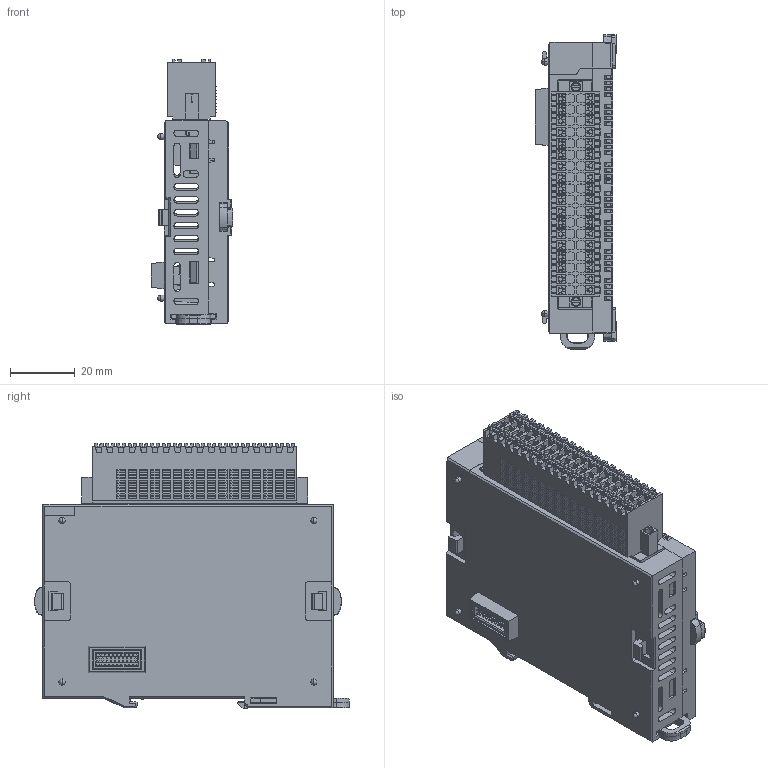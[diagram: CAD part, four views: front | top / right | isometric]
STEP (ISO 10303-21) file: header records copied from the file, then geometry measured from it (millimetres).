
FILE_DESCRIPTION (( 'STEP AP203' ), '1' );
FILE_NAME ('CM3-SP02POS, SP32EOTP, SP32EOCP, SP32EDOP_目池磐 器窃.STEP', '2025-10-20T02:48:13', ( '' ), ( '' ), 'SwSTEP 2.0', 'SolidWorks 2024', '' );
FILE_SCHEMA (( 'CONFIG_CONTROL_DESIGN' ));
Products named in the file (1): CM3-SP02POS, SP32EOTP, SP32EOCP, SP32EDOP_커넥터 포함
Bounding box: 25.25 x 97.5 x 82.07 mm (x, y, z)
Volume: 54111.1 mm3; surface area: 55138.5 mm2
Topology: 1 solids, 3 shells, 8965 faces, 24925 edges, 15930 vertices
Faces by surface type: plane 7679, cylinder 1039, cone 96, bspline 80, sphere 39, torus 32
Entity records: 284449 total; most frequent: CARTESIAN_POINT 57993, ORIENTED_EDGE 49818, DIRECTION 42571, EDGE_CURVE 24909, VECTOR 20969, LINE 20969, VERTEX_POINT 15928, AXIS2_PLACEMENT_3D 10801
